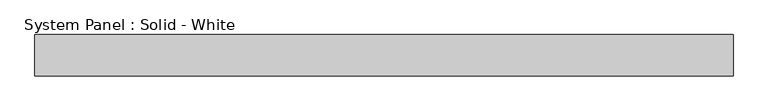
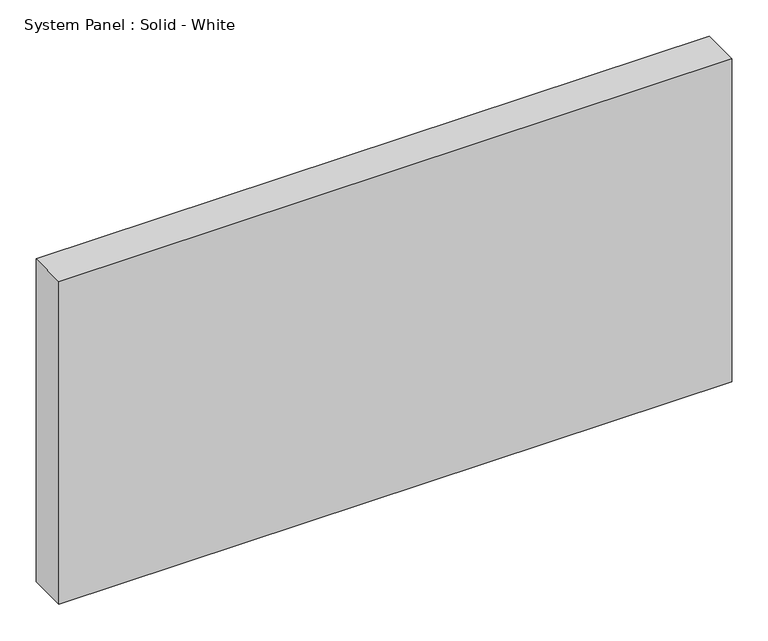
"""IFC4 building model written with IfcOpenShell, lengths in millimetres: plate geometry, System Panel : Solid - White."""

from ifc_helpers import new_model, si_unit, origin, origin_with_axes, place, context, project, spatial, polyline, outline, extrude, source, transform, mapped, element, save


def system_panel_solid_white_1a771d36(model_context):
    return source(origin(), model_context, "Body", "SweptSolid", [
        extrude(outline(polyline([(538.48, -19.05), (-538.48, -19.05), (-538.48, 44.45), (538.48, 44.45), (538.48, -19.05)])), origin_with_axes(), (0.0, 0.0, 1.0), 546.1),
    ])


if __name__ == "__main__":
    model = new_model("IFC4")
    model_context = context("Model", 3, world=origin())
    ifc_project = project(units=[si_unit("LENGTHUNIT", "METRE", prefix="MILLI")], contexts=[model_context])
    site = spatial("IfcSite", under=ifc_project)
    building = spatial("IfcBuilding", under=site)
    placement = place(None, origin())
    system_panel_solid_white_shape = system_panel_solid_white_1a771d36(model_context)
    element("IfcPlate", 1, ObjectType="System Panel : Solid - White", at=placement, inside=building, context=model_context, shape_type="MappedRepresentation", body=[
        mapped(system_panel_solid_white_shape, transform((0.0, 0.0, 0.0), x_axis=(1.0, 0.0, 0.0), y_axis=(0.0, 1.0, 0.0), z_axis=(0.0, 0.0, 1.0))),
    ])
    save(model, "model.ifc")
